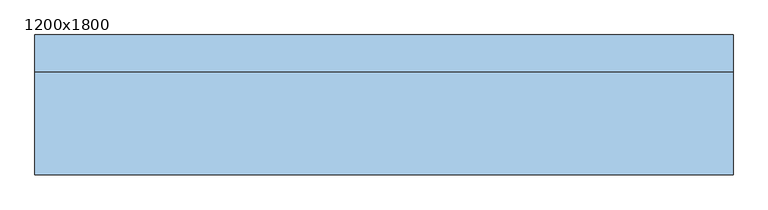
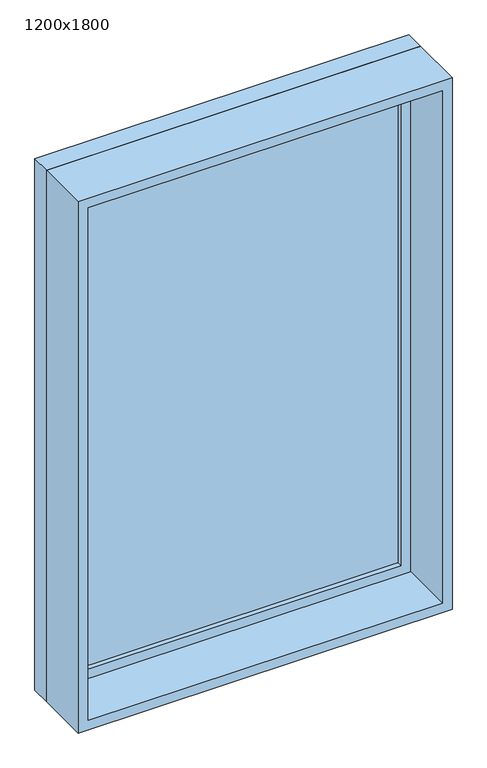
"""IFC4 building model written with IfcOpenShell, lengths in millimetres: window geometry, 固定窗 : 1200x1800."""

from ifc_helpers import new_model, si_unit, frame, origin, place, context, project, spatial, polyline, outline, extrude, source, transform, mapped, element, save


def window_1200x1800_594b251d(model_context):
    return source(origin(), model_context, "Body", "SweptSolid", [
        extrude(outline(polyline([(498.4, 71.425), (-574.6, 71.425), (-574.6, 84.125), (498.4, 84.125), (498.4, 71.425)])), frame((0.0, 0.0, 363.5), z_axis=(0.0, 0.0, 1.0), x_axis=(1.0, 0.0, 0.0)), (0.0, 0.0, 1.0), 1673.0),
        extrude(outline(polyline([(2080.95, -619.05), (319.05, -619.05), (319.05, 542.85), (2080.95, 542.85), (2080.95, -619.05)]), holes=[polyline([(2036.5, -574.6), (2036.5, 498.4), (363.5, 498.4), (363.5, -574.6), (2036.5, -574.6)])]), frame((0.0, 55.55, 0.0), z_axis=(0.0, 1.0, 0.0), x_axis=(0.0, 0.0, 1.0)), (0.0, 0.0, 1.0), 44.45),
        extrude(outline(polyline([(2100.0, -638.1), (300.0, -638.1), (300.0, 561.9), (2100.0, 561.9), (2100.0, -638.1)]), holes=[polyline([(2068.25, -606.35), (2068.25, 530.15), (331.75, 530.15), (331.75, -606.35), (2068.25, -606.35)])]), frame((0.0, -120.0, 0.0), z_axis=(0.0, 1.0, 0.0), x_axis=(0.0, 0.0, 1.0)), (0.0, 0.0, 1.0), 175.55),
        extrude(outline(polyline([(2100.0, 561.9), (2100.0, -638.1), (300.0, -638.1), (300.0, 561.9), (2100.0, 561.9)]), holes=[polyline([(2080.95, 542.85), (319.05, 542.85), (319.05, -619.05), (2080.95, -619.05), (2080.95, 542.85)])]), frame((0.0, 55.55, 0.0), z_axis=(0.0, 1.0, 0.0), x_axis=(0.0, 0.0, 1.0)), (0.0, 0.0, 1.0), 64.45),
    ])


if __name__ == "__main__":
    model = new_model("IFC4")
    model_context = context("Model", 3, world=origin())
    ifc_project = project(units=[si_unit("LENGTHUNIT", "METRE", prefix="MILLI")], contexts=[model_context])
    site = spatial("IfcSite", under=ifc_project)
    building = spatial("IfcBuilding", under=site)
    placement = place(None, origin())
    window_1200x1800_shape = window_1200x1800_594b251d(model_context)
    element("IfcWindow", 1, ObjectType="固定窗 : 1200x1800", at=placement, inside=building, context=model_context, shape_type="MappedRepresentation", body=[
        mapped(window_1200x1800_shape, transform((0.0, 0.0, 0.0), x_axis=(1.0, 0.0, 0.0), y_axis=(0.0, 1.0, 0.0), z_axis=(0.0, 0.0, 1.0))),
    ])
    save(model, "model.ifc")
